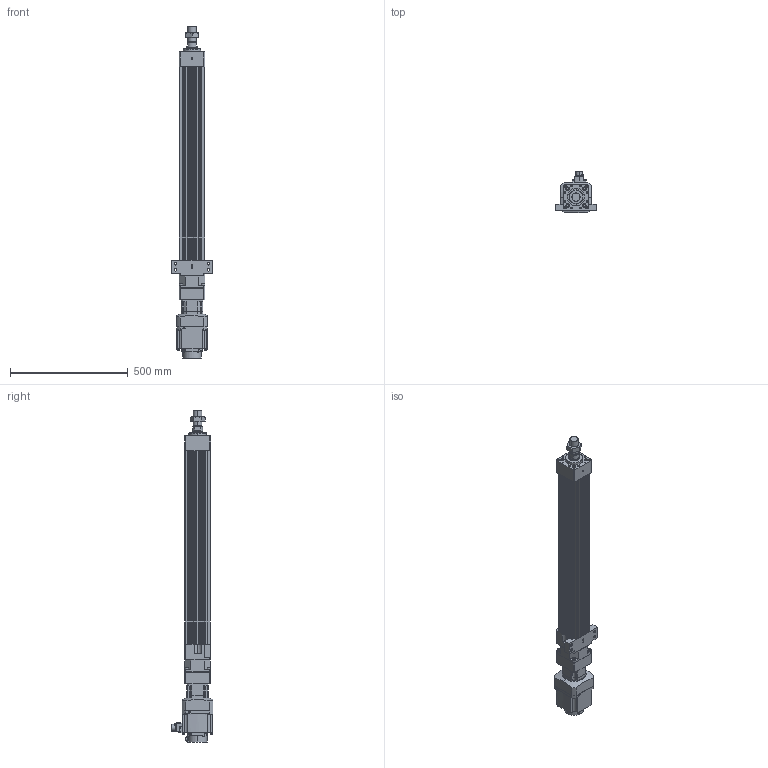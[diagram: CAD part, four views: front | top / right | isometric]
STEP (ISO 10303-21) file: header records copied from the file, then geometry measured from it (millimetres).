
FILE_DESCRIPTION (( 'STEP AP203' ), '1' );
FILE_NAME ('HES110NS(HS)-S650-W010G00-M-FFC.STEP', '2023-01-27T06:53:03', ( 'tms' ), ( '' ), 'SwSTEP 2.0', 'SolidWorks 2013', '' );
FILE_SCHEMA (( 'CONFIG_CONTROL_DESIGN' ));
Length unit declared in the file: millimetre
Products named in the file (8): HG-SR102; HES110 ROD M ST650; HES110-S650-G090-FFC; AB090-003[HG-SR102B]; HES110NS(HS)-S650-W010G00-M-FFC; M36X1.5P; P0401301004; AB0901
Assembly tree (7 placements, depth 3):
  HES110NS(HS)-S650-W010G00-M-FFC
    HES110-S650-G090-FFC
    HES110 ROD M ST650
    M36X1.5P
    AB090-003[HG-SR102B]
      AB0901
      P0401301004
    HG-SR102
Bounding box: 170 x 177.49 x 1408.5 mm (x, y, z)
Volume: 9045275.8 mm3; surface area: 1270370.6 mm2
Topology: 4 solids, 15 shells, 1217 faces, 3075 edges, 1984 vertices
Faces by surface type: plane 556, cylinder 547, cone 102, bspline 8, torus 4
Entity records: 38420 total; most frequent: CARTESIAN_POINT 7442, DIRECTION 6626, ORIENTED_EDGE 6054, EDGE_CURVE 3037, AXIS2_PLACEMENT_3D 2439, VERTEX_POINT 1984, LINE 1748, VECTOR 1748
